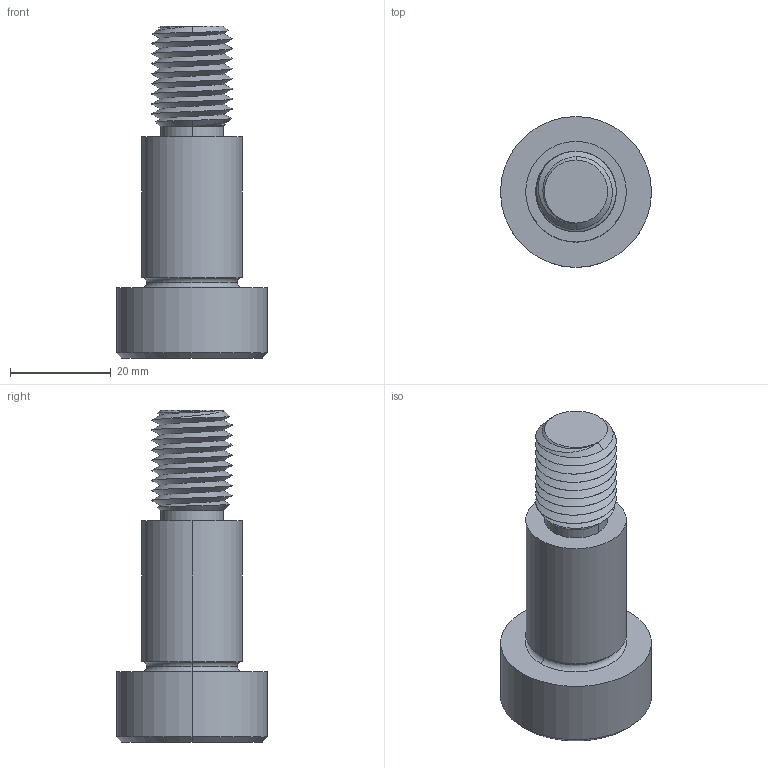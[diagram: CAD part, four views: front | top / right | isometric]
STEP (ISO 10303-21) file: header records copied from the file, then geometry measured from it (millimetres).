
FILE_DESCRIPTION (( 'STEP AP203' ), '1' );
FILE_NAME ('P0130.200-030-B2.step', '2021-11-09T22:20:49', ( '' ), ( '' ), 'SwSTEP 2.0', 'SolidWorks 2019', '' );
FILE_SCHEMA (( 'CONFIG_CONTROL_DESIGN' ));
Length unit declared in the file: millimetre
Products named in the file (1): P0130.200-030-B2
Bounding box: 30 x 30 x 66 mm (x, y, z)
Volume: 21638 mm3; surface area: 6788.8 mm2
Topology: 1 solids, 1 shells, 60 faces, 142 edges, 85 vertices
Faces by surface type: cylinder 24, plane 16, cone 14, torus 4, bspline 2
Entity records: 5678 total; most frequent: CARTESIAN_POINT 4332, ORIENTED_EDGE 280, DIRECTION 247, EDGE_CURVE 140, AXIS2_PLACEMENT_3D 99, VERTEX_POINT 85, EDGE_LOOP 63, ADVANCED_FACE 60
